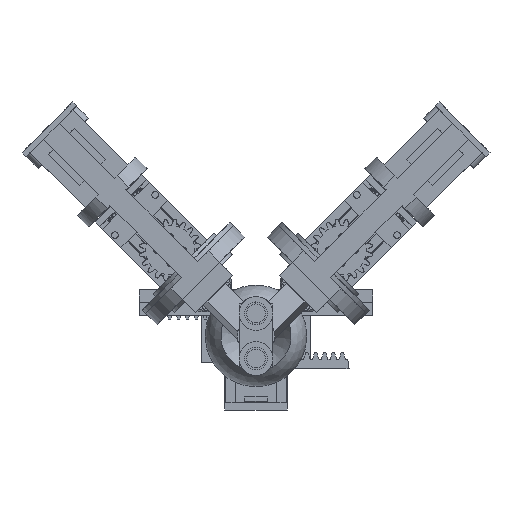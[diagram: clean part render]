
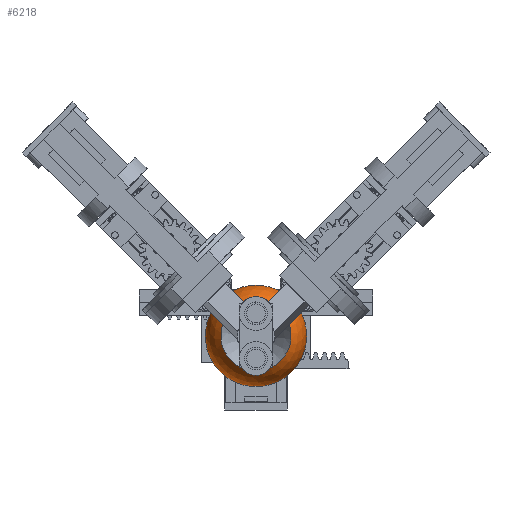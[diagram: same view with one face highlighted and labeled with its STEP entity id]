
A CAD part, left-side view. The second image highlights one B-rep face of the part: STEP entity #6218.
In plain terms, the highlighted spherical face has radius 27 mm.
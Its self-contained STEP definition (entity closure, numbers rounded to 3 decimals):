
#6218 = ADVANCED_FACE('',(#6219),#6234,.T.);
#6219 = FACE_BOUND('',#6220,.T.);
#6220 = EDGE_LOOP('',(#6221,#6252,#6279,#6280));
#6221 = ORIENTED_EDGE('',*,*,#6222,.T.);
#6222 = EDGE_CURVE('',#6223,#6225,#6227,.T.);
#6223 = VERTEX_POINT('',#6224);
#6224 = CARTESIAN_POINT('',(18.693,0.,
    -19.483));
#6225 = VERTEX_POINT('',#6226);
#6226 = CARTESIAN_POINT('',(27.,0.,0.)
  );
#6227 = SEAM_CURVE('',#6228,(#6233,#6245),.PCURVE_S1.);
#6228 = CIRCLE('',#6229,27.);
#6229 = AXIS2_PLACEMENT_3D('',#6230,#6231,#6232);
#6230 = CARTESIAN_POINT('',(0.,0.,0.));
#6231 = DIRECTION('',(0.,-1.,0.));
#6232 = DIRECTION('',(1.,0.,0.));
#6233 = PCURVE('',#6234,#6239);
#6234 = SPHERICAL_SURFACE('',#6235,27.);
#6235 = AXIS2_PLACEMENT_3D('',#6236,#6237,#6238);
#6236 = CARTESIAN_POINT('',(0.,0.,0.));
#6237 = DIRECTION('',(0.,0.,1.));
#6238 = DIRECTION('',(1.,0.,-0.));
#6239 = DEFINITIONAL_REPRESENTATION('',(#6240),#6244);
#6240 = LINE('',#6241,#6242);
#6241 = CARTESIAN_POINT('',(6.283,-6.283));
#6242 = VECTOR('',#6243,1.);
#6243 = DIRECTION('',(0.,1.));
#6244 = ( GEOMETRIC_REPRESENTATION_CONTEXT(2) 
PARAMETRIC_REPRESENTATION_CONTEXT() REPRESENTATION_CONTEXT('2D SPACE',''
  ) );
#6245 = PCURVE('',#6234,#6246);
#6246 = DEFINITIONAL_REPRESENTATION('',(#6247),#6251);
#6247 = LINE('',#6248,#6249);
#6248 = CARTESIAN_POINT('',(0.,-6.283));
#6249 = VECTOR('',#6250,1.);
#6250 = DIRECTION('',(0.,1.));
#6251 = ( GEOMETRIC_REPRESENTATION_CONTEXT(2) 
PARAMETRIC_REPRESENTATION_CONTEXT() REPRESENTATION_CONTEXT('2D SPACE',''
  ) );
#6252 = ORIENTED_EDGE('',*,*,#6253,.F.);
#6253 = EDGE_CURVE('',#6225,#6225,#6254,.T.);
#6254 = SURFACE_CURVE('',#6255,(#6260,#6267),.PCURVE_S1.);
#6255 = CIRCLE('',#6256,27.);
#6256 = AXIS2_PLACEMENT_3D('',#6257,#6258,#6259);
#6257 = CARTESIAN_POINT('',(0.,0.,0.));
#6258 = DIRECTION('',(0.,0.,1.));
#6259 = DIRECTION('',(1.,0.,-0.));
#6260 = PCURVE('',#6234,#6261);
#6261 = DEFINITIONAL_REPRESENTATION('',(#6262),#6266);
#6262 = LINE('',#6263,#6264);
#6263 = CARTESIAN_POINT('',(0.,0.));
#6264 = VECTOR('',#6265,1.);
#6265 = DIRECTION('',(1.,0.));
#6266 = ( GEOMETRIC_REPRESENTATION_CONTEXT(2) 
PARAMETRIC_REPRESENTATION_CONTEXT() REPRESENTATION_CONTEXT('2D SPACE',''
  ) );
#6267 = PCURVE('',#6268,#6273);
#6268 = PLANE('',#6269);
#6269 = AXIS2_PLACEMENT_3D('',#6270,#6271,#6272);
#6270 = CARTESIAN_POINT('',(-40.,-40.,0.));
#6271 = DIRECTION('',(0.,0.,1.));
#6272 = DIRECTION('',(1.,0.,-0.));
#6273 = DEFINITIONAL_REPRESENTATION('',(#6274),#6278);
#6274 = CIRCLE('',#6275,27.);
#6275 = AXIS2_PLACEMENT_2D('',#6276,#6277);
#6276 = CARTESIAN_POINT('',(40.,40.));
#6277 = DIRECTION('',(1.,0.));
#6278 = ( GEOMETRIC_REPRESENTATION_CONTEXT(2) 
PARAMETRIC_REPRESENTATION_CONTEXT() REPRESENTATION_CONTEXT('2D SPACE',''
  ) );
#6279 = ORIENTED_EDGE('',*,*,#6222,.F.);
#6280 = ORIENTED_EDGE('',*,*,#6281,.F.);
#6281 = EDGE_CURVE('',#6223,#6223,#6282,.T.);
#6282 = SURFACE_CURVE('',#6283,(#6288,#6295),.PCURVE_S1.);
#6283 = CIRCLE('',#6284,18.693);
#6284 = AXIS2_PLACEMENT_3D('',#6285,#6286,#6287);
#6285 = CARTESIAN_POINT('',(0.,0.,-19.483));
#6286 = DIRECTION('',(0.,0.,-1.));
#6287 = DIRECTION('',(0.,1.,0.));
#6288 = PCURVE('',#6234,#6289);
#6289 = DEFINITIONAL_REPRESENTATION('',(#6290),#6294);
#6290 = LINE('',#6291,#6292);
#6291 = CARTESIAN_POINT('',(7.854,-0.806));
#6292 = VECTOR('',#6293,1.);
#6293 = DIRECTION('',(-1.,0.));
#6294 = ( GEOMETRIC_REPRESENTATION_CONTEXT(2) 
PARAMETRIC_REPRESENTATION_CONTEXT() REPRESENTATION_CONTEXT('2D SPACE',''
  ) );
#6295 = PCURVE('',#6296,#6301);
#6296 = CONICAL_SURFACE('',#6297,0.01,0.593);
#6297 = AXIS2_PLACEMENT_3D('',#6298,#6299,#6300);
#6298 = CARTESIAN_POINT('',(0.,0.,8.226));
#6299 = DIRECTION('',(0.,0.,-1.));
#6300 = DIRECTION('',(1.,0.,0.));
#6301 = DEFINITIONAL_REPRESENTATION('',(#6302),#6306);
#6302 = LINE('',#6303,#6304);
#6303 = CARTESIAN_POINT('',(-1.571,27.709));
#6304 = VECTOR('',#6305,1.);
#6305 = DIRECTION('',(1.,0.));
#6306 = ( GEOMETRIC_REPRESENTATION_CONTEXT(2) 
PARAMETRIC_REPRESENTATION_CONTEXT() REPRESENTATION_CONTEXT('2D SPACE',''
  ) );
